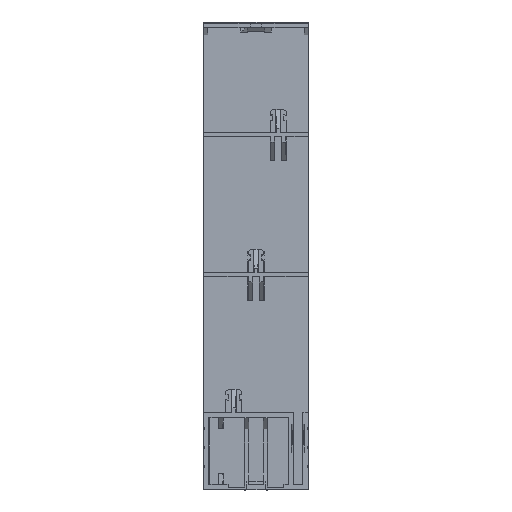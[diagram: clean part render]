
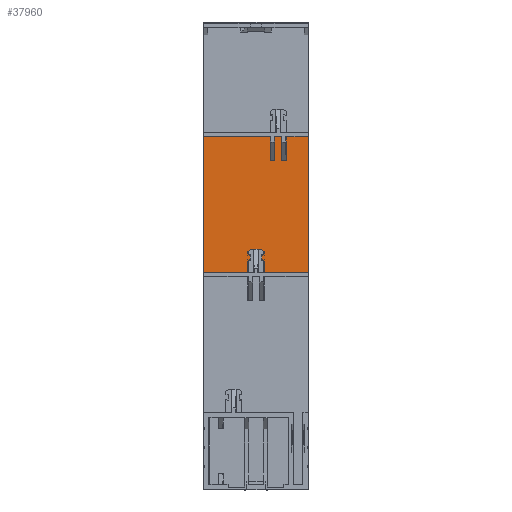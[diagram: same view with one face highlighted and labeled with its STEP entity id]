
A CAD part, front view. The second image highlights one B-rep face of the part: STEP entity #37960.
In plain terms, the highlighted planar face has unit normal (0, -1, 0).
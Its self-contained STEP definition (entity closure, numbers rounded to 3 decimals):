
#601 = ORIENTED_EDGE ( 'NONE', *, *, #47866, .T. ) ;
#2099 = VECTOR ( 'NONE', #21969, 1000. ) ;
#2796 = CARTESIAN_POINT ( 'NONE',  ( 10.959, -4.5, 141.175 ) ) ;
#3530 = LINE ( 'NONE', #77882, #54321 ) ;
#3830 = CARTESIAN_POINT ( 'NONE',  ( 22.5, -4.5, 200.5 ) ) ;
#5899 = ORIENTED_EDGE ( 'NONE', *, *, #9679, .T. ) ;
#6545 = CARTESIAN_POINT ( 'NONE',  ( -22.5, -4.5, 151.209 ) ) ;
#7759 = ORIENTED_EDGE ( 'NONE', *, *, #73011, .T. ) ;
#8785 = VERTEX_POINT ( 'NONE', #67707 ) ;
#9679 = EDGE_CURVE ( 'NONE', #8785, #46219, #3530, .T. ) ;
#10912 = DIRECTION ( 'NONE',  ( 0., 0., 1. ) ) ;
#11176 = VERTEX_POINT ( 'NONE', #29006 ) ;
#11223 = DIRECTION ( 'NONE',  ( 0., 0., 1. ) ) ;
#12686 = CARTESIAN_POINT ( 'NONE',  ( 22.5, -4.5, 151.209 ) ) ;
#13553 = DIRECTION ( 'NONE',  ( -1., 0., 0. ) ) ;
#14255 = LINE ( 'NONE', #77489, #74813 ) ;
#14405 = ORIENTED_EDGE ( 'NONE', *, *, #31739, .T. ) ;
#14901 = CARTESIAN_POINT ( 'NONE',  ( 8.041, -4.5, 151.209 ) ) ;
#18090 = EDGE_CURVE ( 'NONE', #11176, #39495, #64244, .T. ) ;
#18351 = FACE_OUTER_BOUND ( 'NONE', #70985, .T. ) ;
#19285 = CARTESIAN_POINT ( 'NONE',  ( 25.5, -4.5, 93. ) ) ;
#19409 = CARTESIAN_POINT ( 'NONE',  ( 6.059, -4.5, 151.209 ) ) ;
#19630 = VERTEX_POINT ( 'NONE', #19409 ) ;
#21408 = ORIENTED_EDGE ( 'NONE', *, *, #43860, .T. ) ;
#21561 = CARTESIAN_POINT ( 'NONE',  ( -22.5, -4.5, 93. ) ) ;
#21689 = EDGE_CURVE ( 'NONE', #68321, #64679, #62932, .T. ) ;
#21969 = DIRECTION ( 'NONE',  ( 0., 0., -1. ) ) ;
#24965 = EDGE_CURVE ( 'NONE', #39495, #69579, #64544, .T. ) ;
#25434 = ORIENTED_EDGE ( 'NONE', *, *, #67300, .T. ) ;
#25584 = ORIENTED_EDGE ( 'NONE', *, *, #18090, .T. ) ;
#26437 = CARTESIAN_POINT ( 'NONE',  ( 224.594, -4.5, 141.175 ) ) ;
#26918 = LINE ( 'NONE', #68451, #36727 ) ;
#28829 = CARTESIAN_POINT ( 'NONE',  ( 224.594, -4.5, 151.209 ) ) ;
#29006 = CARTESIAN_POINT ( 'NONE',  ( 12.941, -4.5, 151.209 ) ) ;
#29745 = VERTEX_POINT ( 'NONE', #41703 ) ;
#30376 = DIRECTION ( 'NONE',  ( 0., 0., -1. ) ) ;
#30442 = DIRECTION ( 'NONE',  ( -1., 0., 0. ) ) ;
#30967 = CARTESIAN_POINT ( 'NONE',  ( 10.959, -4.5, 200.5 ) ) ;
#31152 = ORIENTED_EDGE ( 'NONE', *, *, #21689, .T. ) ;
#31739 = EDGE_CURVE ( 'NONE', #43798, #44160, #55995, .T. ) ;
#33224 = PLANE ( 'NONE',  #68133 ) ;
#34003 = ORIENTED_EDGE ( 'NONE', *, *, #35495, .T. ) ;
#35495 = EDGE_CURVE ( 'NONE', #19630, #43798, #57641, .T. ) ;
#36727 = VECTOR ( 'NONE', #74426, 1000. ) ;
#37960 = ADVANCED_FACE ( 'NONE', ( #18351 ), #33224, .T. ) ;
#38008 = LINE ( 'NONE', #47871, #77994 ) ;
#38294 = LINE ( 'NONE', #19285, #73401 ) ;
#39495 = VERTEX_POINT ( 'NONE', #80640 ) ;
#39742 = CARTESIAN_POINT ( 'NONE',  ( 224.594, -4.5, 200.5 ) ) ;
#40533 = CARTESIAN_POINT ( 'NONE',  ( 22.5, -4.5, 93. ) ) ;
#41703 = CARTESIAN_POINT ( 'NONE',  ( 8.041, -4.5, 141.175 ) ) ;
#42320 = LINE ( 'NONE', #30967, #75455 ) ;
#42784 = VECTOR ( 'NONE', #63761, 1000. ) ;
#43798 = VERTEX_POINT ( 'NONE', #6545 ) ;
#43860 = EDGE_CURVE ( 'NONE', #69579, #8785, #42320, .T. ) ;
#44160 = VERTEX_POINT ( 'NONE', #21561 ) ;
#46146 = DIRECTION ( 'NONE',  ( -1., 0., 0. ) ) ;
#46219 = VERTEX_POINT ( 'NONE', #14901 ) ;
#46343 = VECTOR ( 'NONE', #10912, 1000. ) ;
#47866 = EDGE_CURVE ( 'NONE', #72200, #19630, #38008, .T. ) ;
#47871 = CARTESIAN_POINT ( 'NONE',  ( 6.059, -4.5, 200.5 ) ) ;
#48047 = ORIENTED_EDGE ( 'NONE', *, *, #54524, .T. ) ;
#48389 = CARTESIAN_POINT ( 'NONE',  ( -22.5, -4.5, 200. ) ) ;
#50727 = CARTESIAN_POINT ( 'NONE',  ( 12.941, -4.5, 200.5 ) ) ;
#53655 = CARTESIAN_POINT ( 'NONE',  ( 6.059, -4.5, 141.175 ) ) ;
#54321 = VECTOR ( 'NONE', #59615, 1000. ) ;
#54524 = EDGE_CURVE ( 'NONE', #64679, #11176, #26918, .T. ) ;
#54824 = ORIENTED_EDGE ( 'NONE', *, *, #58026, .T. ) ;
#55995 = LINE ( 'NONE', #48389, #79464 ) ;
#57641 = LINE ( 'NONE', #28829, #66454 ) ;
#58026 = EDGE_CURVE ( 'NONE', #46219, #29745, #73393, .T. ) ;
#59615 = DIRECTION ( 'NONE',  ( -1., 0., 0. ) ) ;
#61168 = ORIENTED_EDGE ( 'NONE', *, *, #24965, .T. ) ;
#61783 = VECTOR ( 'NONE', #13553, 1000. ) ;
#62932 = LINE ( 'NONE', #3830, #46343 ) ;
#63761 = DIRECTION ( 'NONE',  ( 0., 0., -1. ) ) ;
#64244 = LINE ( 'NONE', #50727, #42784 ) ;
#64544 = LINE ( 'NONE', #26437, #61783 ) ;
#64679 = VERTEX_POINT ( 'NONE', #12686 ) ;
#66202 = DIRECTION ( 'NONE',  ( 0., 0., -1. ) ) ;
#66454 = VECTOR ( 'NONE', #30442, 1000. ) ;
#67300 = EDGE_CURVE ( 'NONE', #44160, #68321, #38294, .T. ) ;
#67707 = CARTESIAN_POINT ( 'NONE',  ( 10.959, -4.5, 151.209 ) ) ;
#68133 = AXIS2_PLACEMENT_3D ( 'NONE', #39742, #77086, #66202 ) ;
#68321 = VERTEX_POINT ( 'NONE', #40533 ) ;
#68451 = CARTESIAN_POINT ( 'NONE',  ( 224.594, -4.5, 151.209 ) ) ;
#68969 = DIRECTION ( 'NONE',  ( 1., 0., 0. ) ) ;
#69579 = VERTEX_POINT ( 'NONE', #2796 ) ;
#70985 = EDGE_LOOP ( 'NONE', ( #34003, #14405, #25434, #31152, #48047, #25584, #61168, #21408, #5899, #54824, #7759, #601 ) ) ;
#72200 = VERTEX_POINT ( 'NONE', #53655 ) ;
#73011 = EDGE_CURVE ( 'NONE', #29745, #72200, #14255, .T. ) ;
#73393 = LINE ( 'NONE', #78463, #2099 ) ;
#73401 = VECTOR ( 'NONE', #68969, 1000. ) ;
#74426 = DIRECTION ( 'NONE',  ( -1., 0., 0. ) ) ;
#74813 = VECTOR ( 'NONE', #46146, 1000. ) ;
#75083 = DIRECTION ( 'NONE',  ( 0., 0., 1. ) ) ;
#75455 = VECTOR ( 'NONE', #75083, 1000. ) ;
#77086 = DIRECTION ( 'NONE',  ( 0., -1., 0. ) ) ;
#77489 = CARTESIAN_POINT ( 'NONE',  ( 224.594, -4.5, 141.175 ) ) ;
#77882 = CARTESIAN_POINT ( 'NONE',  ( 224.594, -4.5, 151.209 ) ) ;
#77994 = VECTOR ( 'NONE', #11223, 1000. ) ;
#78463 = CARTESIAN_POINT ( 'NONE',  ( 8.041, -4.5, 200.5 ) ) ;
#79464 = VECTOR ( 'NONE', #30376, 1000. ) ;
#80640 = CARTESIAN_POINT ( 'NONE',  ( 12.941, -4.5, 141.175 ) ) ;
